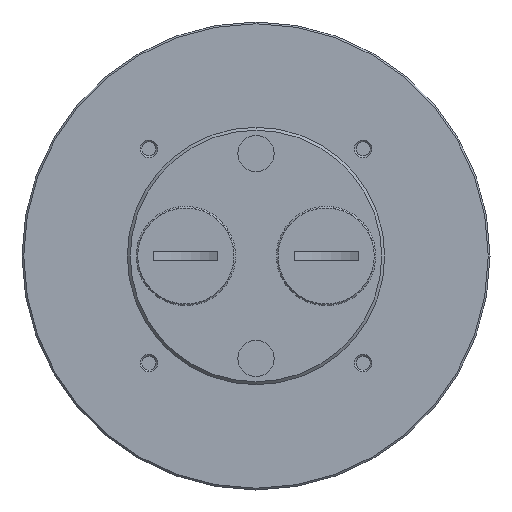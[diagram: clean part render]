
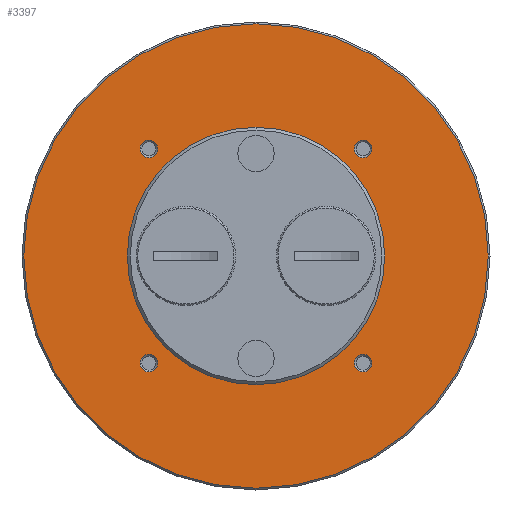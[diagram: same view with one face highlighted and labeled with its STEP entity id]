
A CAD part, left-side view. The second image highlights one B-rep face of the part: STEP entity #3397.
In plain terms, the highlighted planar face has unit normal (-1, 0, 0).
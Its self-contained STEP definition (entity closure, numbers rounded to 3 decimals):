
#66 = EDGE_CURVE ( 'NONE', #7115, #7095, #768, .T. ) ;
#360 = AXIS2_PLACEMENT_3D ( 'NONE', #3707, #3695, #3675 ) ;
#519 = CIRCLE ( 'NONE', #4271, 1.5 ) ;
#568 = CIRCLE ( 'NONE', #4308, 22. ) ;
#593 = CIRCLE ( 'NONE', #6882, 1.5 ) ;
#629 = CIRCLE ( 'NONE', #6868, 1.5 ) ;
#631 = CIRCLE ( 'NONE', #6853, 1.5 ) ;
#642 = CIRCLE ( 'NONE', #6864, 1.5 ) ;
#644 = CIRCLE ( 'NONE', #6891, 39.7 ) ;
#651 = CIRCLE ( 'NONE', #6852, 39.7 ) ;
#652 = CIRCLE ( 'NONE', #6875, 1.5 ) ;
#667 = CIRCLE ( 'NONE', #6890, 1.5 ) ;
#683 = CIRCLE ( 'NONE', #6887, 22. ) ;
#768 = CIRCLE ( 'NONE', #360, 1.5 ) ;
#1516 = FACE_BOUND ( 'NONE', #2257, .T. ) ;
#1529 = FACE_BOUND ( 'NONE', #2254, .T. ) ;
#1530 = FACE_BOUND ( 'NONE', #2309, .T. ) ;
#1536 = FACE_OUTER_BOUND ( 'NONE', #2301, .T. ) ;
#1537 = FACE_BOUND ( 'NONE', #2265, .T. ) ;
#1553 = FACE_BOUND ( 'NONE', #2277, .T. ) ;
#2254 = EDGE_LOOP ( 'NONE', ( #2684, #2674 ) ) ;
#2257 = EDGE_LOOP ( 'NONE', ( #2784, #2675 ) ) ;
#2265 = EDGE_LOOP ( 'NONE', ( #2825, #2819 ) ) ;
#2277 = EDGE_LOOP ( 'NONE', ( #3462, #2783 ) ) ;
#2301 = EDGE_LOOP ( 'NONE', ( #2677, #2676 ) ) ;
#2309 = EDGE_LOOP ( 'NONE', ( #7124, #7088 ) ) ;
#2674 = ORIENTED_EDGE ( 'NONE', *, *, #7436, .T. ) ;
#2675 = ORIENTED_EDGE ( 'NONE', *, *, #7452, .T. ) ;
#2676 = ORIENTED_EDGE ( 'NONE', *, *, #4067, .T. ) ;
#2677 = ORIENTED_EDGE ( 'NONE', *, *, #7443, .T. ) ;
#2684 = ORIENTED_EDGE ( 'NONE', *, *, #3980, .T. ) ;
#2783 = ORIENTED_EDGE ( 'NONE', *, *, #7444, .T. ) ;
#2784 = ORIENTED_EDGE ( 'NONE', *, *, #4044, .T. ) ;
#2816 = VERTEX_POINT ( 'NONE', #5231 ) ;
#2819 = ORIENTED_EDGE ( 'NONE', *, *, #66, .T. ) ;
#2825 = ORIENTED_EDGE ( 'NONE', *, *, #4058, .T. ) ;
#2875 = VERTEX_POINT ( 'NONE', #5305 ) ;
#2889 = VERTEX_POINT ( 'NONE', #5338 ) ;
#2892 = VERTEX_POINT ( 'NONE', #5292 ) ;
#3397 = ADVANCED_FACE ( 'NONE', ( #1553, #1537, #1516, #1529, #1530, #1536 ), #6375, .F. ) ;
#3462 = ORIENTED_EDGE ( 'NONE', *, *, #4057, .T. ) ;
#3675 = DIRECTION ( 'NONE',  ( 0., 0., -1. ) ) ;
#3695 = DIRECTION ( 'NONE',  ( 1., 0., 0. ) ) ;
#3707 = CARTESIAN_POINT ( 'NONE',  ( -13., -18.307, 18.307 ) ) ;
#3980 = EDGE_CURVE ( 'NONE', #7092, #7105, #519, .T. ) ;
#4019 = EDGE_CURVE ( 'NONE', #2889, #2875, #568, .T. ) ;
#4044 = EDGE_CURVE ( 'NONE', #7104, #7112, #593, .T. ) ;
#4057 = EDGE_CURVE ( 'NONE', #7089, #7111, #629, .T. ) ;
#4058 = EDGE_CURVE ( 'NONE', #7095, #7115, #631, .T. ) ;
#4067 = EDGE_CURVE ( 'NONE', #2816, #2892, #644, .T. ) ;
#4220 = AXIS2_PLACEMENT_3D ( 'NONE', #6337, #6335, #6365 ) ;
#4271 = AXIS2_PLACEMENT_3D ( 'NONE', #6567, #6572, #6565 ) ;
#4308 = AXIS2_PLACEMENT_3D ( 'NONE', #6673, #6660, #6677 ) ;
#5231 = CARTESIAN_POINT ( 'NONE',  ( -13., 0., 39.7 ) ) ;
#5292 = CARTESIAN_POINT ( 'NONE',  ( -13., 0., -39.7 ) ) ;
#5305 = CARTESIAN_POINT ( 'NONE',  ( -13., 0., -22. ) ) ;
#5338 = CARTESIAN_POINT ( 'NONE',  ( -13., 0., 22. ) ) ;
#5858 = CARTESIAN_POINT ( 'NONE',  ( -13., 18.307, 16.807 ) ) ;
#5868 = CARTESIAN_POINT ( 'NONE',  ( -13., -18.307, -18.307 ) ) ;
#5869 = DIRECTION ( 'NONE',  ( 1., 0., 0. ) ) ;
#5870 = DIRECTION ( 'NONE',  ( -1., 0., 0. ) ) ;
#5876 = CARTESIAN_POINT ( 'NONE',  ( -13., 18.307, -18.307 ) ) ;
#5879 = CARTESIAN_POINT ( 'NONE',  ( -13., 0., 0. ) ) ;
#5880 = CARTESIAN_POINT ( 'NONE',  ( -13., -18.307, -19.807 ) ) ;
#5881 = DIRECTION ( 'NONE',  ( 1., 0., 0. ) ) ;
#5882 = DIRECTION ( 'NONE',  ( 0., 0., 1. ) ) ;
#5895 = DIRECTION ( 'NONE',  ( 0., 0., -1. ) ) ;
#5905 = DIRECTION ( 'NONE',  ( 0., 0., 1. ) ) ;
#5909 = CARTESIAN_POINT ( 'NONE',  ( -13., 0., 0. ) ) ;
#5911 = DIRECTION ( 'NONE',  ( 0., 0., -1. ) ) ;
#5913 = DIRECTION ( 'NONE',  ( 1., 0., 0. ) ) ;
#5916 = DIRECTION ( 'NONE',  ( 0., 0., -1. ) ) ;
#5923 = CARTESIAN_POINT ( 'NONE',  ( -13., 18.307, 18.307 ) ) ;
#5932 = DIRECTION ( 'NONE',  ( -1., 0., 0. ) ) ;
#6335 = DIRECTION ( 'NONE',  ( 1., 0., 0. ) ) ;
#6337 = CARTESIAN_POINT ( 'NONE',  ( -13., 22., 0. ) ) ;
#6365 = DIRECTION ( 'NONE',  ( 0., 0., -1. ) ) ;
#6375 = PLANE ( 'NONE',  #4220 ) ;
#6565 = DIRECTION ( 'NONE',  ( 0., 0., -1. ) ) ;
#6567 = CARTESIAN_POINT ( 'NONE',  ( -13., 18.307, -18.307 ) ) ;
#6572 = DIRECTION ( 'NONE',  ( 1., 0., 0. ) ) ;
#6660 = DIRECTION ( 'NONE',  ( -1., 0., 0. ) ) ;
#6673 = CARTESIAN_POINT ( 'NONE',  ( -13., 0., 0. ) ) ;
#6677 = DIRECTION ( 'NONE',  ( 0., 0., 1. ) ) ;
#6744 = CARTESIAN_POINT ( 'NONE',  ( -13., 18.307, 18.307 ) ) ;
#6747 = DIRECTION ( 'NONE',  ( 1., 0., 0. ) ) ;
#6759 = DIRECTION ( 'NONE',  ( 0., 0., -1. ) ) ;
#6764 = DIRECTION ( 'NONE',  ( 1., 0., 0. ) ) ;
#6769 = DIRECTION ( 'NONE',  ( 0., 0., -1. ) ) ;
#6772 = CARTESIAN_POINT ( 'NONE',  ( -13., -18.307, -18.307 ) ) ;
#6773 = DIRECTION ( 'NONE',  ( 1., 0., 0. ) ) ;
#6774 = DIRECTION ( 'NONE',  ( 0., 0., -1. ) ) ;
#6783 = DIRECTION ( 'NONE',  ( -1., 0., 0. ) ) ;
#6792 = CARTESIAN_POINT ( 'NONE',  ( -13., 0., 0. ) ) ;
#6793 = DIRECTION ( 'NONE',  ( 0., 0., 1. ) ) ;
#6798 = CARTESIAN_POINT ( 'NONE',  ( -13., 18.307, -16.807 ) ) ;
#6799 = CARTESIAN_POINT ( 'NONE',  ( -13., -18.307, 18.307 ) ) ;
#6805 = CARTESIAN_POINT ( 'NONE',  ( -13., -18.307, 19.807 ) ) ;
#6807 = CARTESIAN_POINT ( 'NONE',  ( -13., -18.307, -16.807 ) ) ;
#6815 = CARTESIAN_POINT ( 'NONE',  ( -13., 18.307, 19.807 ) ) ;
#6816 = CARTESIAN_POINT ( 'NONE',  ( -13., 18.307, -19.807 ) ) ;
#6820 = CARTESIAN_POINT ( 'NONE',  ( -13., -18.307, 16.807 ) ) ;
#6852 = AXIS2_PLACEMENT_3D ( 'NONE', #5879, #5870, #5882 ) ;
#6853 = AXIS2_PLACEMENT_3D ( 'NONE', #6799, #6773, #6769 ) ;
#6864 = AXIS2_PLACEMENT_3D ( 'NONE', #5876, #5881, #5895 ) ;
#6868 = AXIS2_PLACEMENT_3D ( 'NONE', #6772, #6764, #6774 ) ;
#6875 = AXIS2_PLACEMENT_3D ( 'NONE', #5923, #5913, #5911 ) ;
#6882 = AXIS2_PLACEMENT_3D ( 'NONE', #6744, #6747, #6759 ) ;
#6887 = AXIS2_PLACEMENT_3D ( 'NONE', #5909, #5932, #5905 ) ;
#6890 = AXIS2_PLACEMENT_3D ( 'NONE', #5868, #5869, #5916 ) ;
#6891 = AXIS2_PLACEMENT_3D ( 'NONE', #6792, #6783, #6793 ) ;
#7088 = ORIENTED_EDGE ( 'NONE', *, *, #7450, .F. ) ;
#7089 = VERTEX_POINT ( 'NONE', #6807 ) ;
#7092 = VERTEX_POINT ( 'NONE', #6798 ) ;
#7095 = VERTEX_POINT ( 'NONE', #6805 ) ;
#7104 = VERTEX_POINT ( 'NONE', #6815 ) ;
#7105 = VERTEX_POINT ( 'NONE', #6816 ) ;
#7111 = VERTEX_POINT ( 'NONE', #5880 ) ;
#7112 = VERTEX_POINT ( 'NONE', #5858 ) ;
#7115 = VERTEX_POINT ( 'NONE', #6820 ) ;
#7124 = ORIENTED_EDGE ( 'NONE', *, *, #4019, .F. ) ;
#7436 = EDGE_CURVE ( 'NONE', #7105, #7092, #642, .T. ) ;
#7443 = EDGE_CURVE ( 'NONE', #2892, #2816, #651, .T. ) ;
#7444 = EDGE_CURVE ( 'NONE', #7111, #7089, #667, .T. ) ;
#7450 = EDGE_CURVE ( 'NONE', #2875, #2889, #683, .T. ) ;
#7452 = EDGE_CURVE ( 'NONE', #7112, #7104, #652, .T. ) ;
